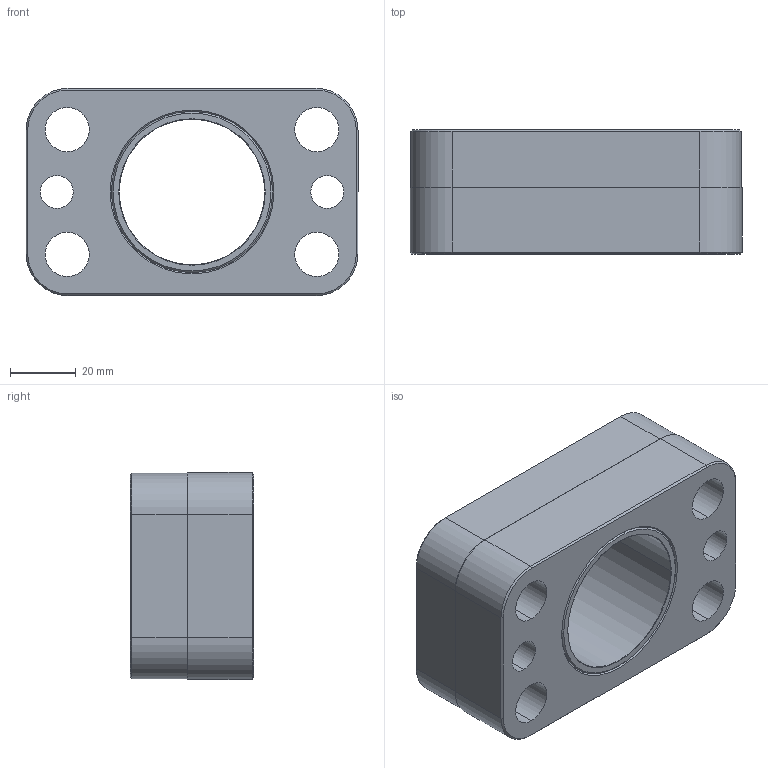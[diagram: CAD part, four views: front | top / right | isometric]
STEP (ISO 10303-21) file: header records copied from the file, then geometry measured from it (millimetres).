
FILE_DESCRIPTION (( 'STEP AP214' ), '1' );
FILE_NAME ('GK175-A-M-Base.STEP', '2010-11-16T13:26:31', ( ' ' ), ( '' ), 'SwSTEP 2.0', 'SolidWorks 2010', '' );
FILE_SCHEMA (( 'AUTOMOTIVE_DESIGN' ));
Length unit declared in the file: inch
Products named in the file (3): GK175-A-M-Base; Base-GK175-A_Base-GK175-A-M-NoText; Bushing-BU-1.75ID-1.485Long_Bushing-BU-1.75ID-1.485Long
Assembly tree (2 placements, depth 2):
  GK175-A-M-Base
    Base-GK175-A_Base-GK175-A-M-NoText
    Bushing-BU-1.75ID-1.485Long_Bushing-BU-1.75ID-1.485Long
Bounding box: 101.35 x 37.85 x 63.25 mm (x, y, z)
Volume: 138714.5 mm3; surface area: 46171.2 mm2
Topology: 2 solids, 2 shells, 91 faces, 206 edges, 124 vertices
Faces by surface type: cylinder 38, cone 28, plane 25
Entity records: 2800 total; most frequent: DIRECTION 498, CARTESIAN_POINT 426, ORIENTED_EDGE 412, EDGE_CURVE 206, AXIS2_PLACEMENT_3D 196, VERTEX_POINT 124, EDGE_LOOP 112, LINE 106
